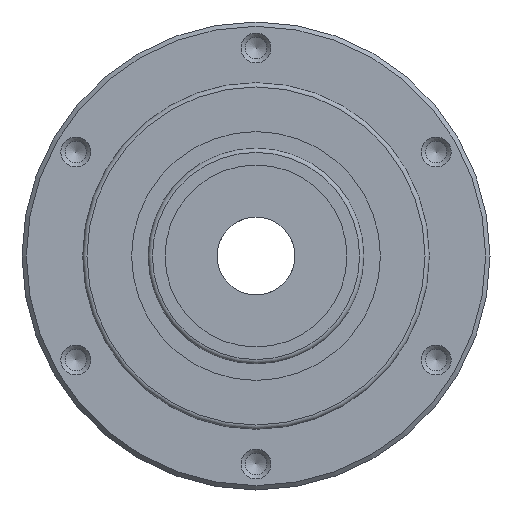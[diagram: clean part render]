
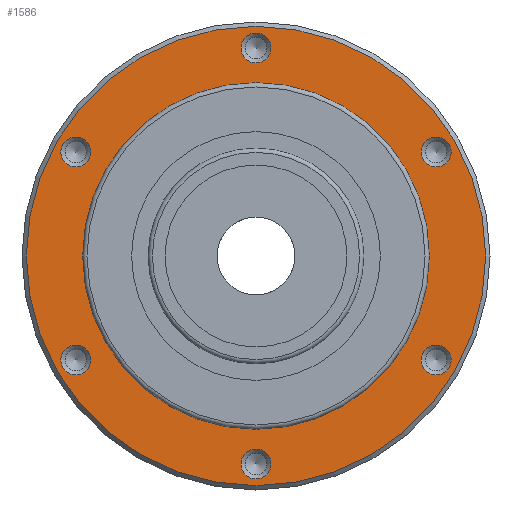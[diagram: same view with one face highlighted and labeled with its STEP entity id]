
A CAD part, left-side view. The second image highlights one B-rep face of the part: STEP entity #1586.
In plain terms, the highlighted planar face has unit normal (-1, 0, 0).
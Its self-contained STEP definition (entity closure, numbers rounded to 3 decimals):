
#107=PLANE('',#1705);
#165=CIRCLE('',#1704,40.);
#166=CIRCLE('',#1706,3.459);
#167=CIRCLE('',#1707,3.459);
#168=CIRCLE('',#1708,3.459);
#169=CIRCLE('',#1709,3.459);
#170=CIRCLE('',#1710,3.459);
#171=CIRCLE('',#1711,3.459);
#172=CIRCLE('',#1712,53.);
#270=ORIENTED_EDGE('',*,*,#484,.T.);
#271=ORIENTED_EDGE('',*,*,#485,.T.);
#272=ORIENTED_EDGE('',*,*,#486,.T.);
#273=ORIENTED_EDGE('',*,*,#487,.T.);
#274=ORIENTED_EDGE('',*,*,#488,.T.);
#275=ORIENTED_EDGE('',*,*,#489,.T.);
#276=ORIENTED_EDGE('',*,*,#490,.T.);
#277=ORIENTED_EDGE('',*,*,#483,.F.);
#483=EDGE_CURVE('',#590,#590,#165,.T.);
#484=EDGE_CURVE('',#591,#591,#166,.T.);
#485=EDGE_CURVE('',#592,#592,#167,.T.);
#486=EDGE_CURVE('',#593,#593,#168,.T.);
#487=EDGE_CURVE('',#594,#594,#169,.T.);
#488=EDGE_CURVE('',#595,#595,#170,.T.);
#489=EDGE_CURVE('',#596,#596,#171,.T.);
#490=EDGE_CURVE('',#597,#597,#172,.T.);
#590=VERTEX_POINT('',#2340);
#591=VERTEX_POINT('',#2343);
#592=VERTEX_POINT('',#2345);
#593=VERTEX_POINT('',#2347);
#594=VERTEX_POINT('',#2349);
#595=VERTEX_POINT('',#2351);
#596=VERTEX_POINT('',#2353);
#597=VERTEX_POINT('',#2355);
#699=EDGE_LOOP('',(#270));
#700=EDGE_LOOP('',(#271));
#701=EDGE_LOOP('',(#272));
#702=EDGE_LOOP('',(#273));
#703=EDGE_LOOP('',(#274));
#704=EDGE_LOOP('',(#275));
#705=EDGE_LOOP('',(#276));
#706=EDGE_LOOP('',(#277));
#845=FACE_BOUND('',#699,.T.);
#846=FACE_BOUND('',#700,.T.);
#847=FACE_BOUND('',#701,.T.);
#848=FACE_BOUND('',#702,.T.);
#849=FACE_BOUND('',#703,.T.);
#850=FACE_BOUND('',#704,.T.);
#851=FACE_BOUND('',#705,.T.);
#852=FACE_BOUND('',#706,.T.);
#1586=ADVANCED_FACE('',(#845,#846,#847,#848,#849,#850,#851,#852),#107,.T.);
#1704=AXIS2_PLACEMENT_3D('',#2339,#1913,#1914);
#1705=AXIS2_PLACEMENT_3D('',#2341,#1915,#1916);
#1706=AXIS2_PLACEMENT_3D('',#2342,#1917,#1918);
#1707=AXIS2_PLACEMENT_3D('',#2344,#1919,#1920);
#1708=AXIS2_PLACEMENT_3D('',#2346,#1921,#1922);
#1709=AXIS2_PLACEMENT_3D('',#2348,#1923,#1924);
#1710=AXIS2_PLACEMENT_3D('',#2350,#1925,#1926);
#1711=AXIS2_PLACEMENT_3D('',#2352,#1927,#1928);
#1712=AXIS2_PLACEMENT_3D('',#2354,#1929,#1930);
#1913=DIRECTION('',(-1.,0.,0.));
#1914=DIRECTION('',(0.,0.,1.));
#1915=DIRECTION('',(-1.,0.,0.));
#1916=DIRECTION('',(0.,0.,1.));
#1917=DIRECTION('',(1.,0.,0.));
#1918=DIRECTION('',(0.,-0.5,0.866));
#1919=DIRECTION('',(1.,0.,0.));
#1920=DIRECTION('',(0.,0.5,0.866));
#1921=DIRECTION('',(1.,0.,0.));
#1922=DIRECTION('',(0.,1.,0.));
#1923=DIRECTION('',(1.,0.,0.));
#1924=DIRECTION('',(0.,0.5,-0.866));
#1925=DIRECTION('',(1.,0.,0.));
#1926=DIRECTION('',(0.,-0.5,-0.866));
#1927=DIRECTION('',(1.,0.,0.));
#1928=DIRECTION('',(0.,-1.,0.));
#1929=DIRECTION('',(-1.,0.,0.));
#1930=DIRECTION('',(0.,0.,1.));
#2339=CARTESIAN_POINT('',(12.167,0.,0.));
#2340=CARTESIAN_POINT('',(12.167,0.,40.));
#2341=CARTESIAN_POINT('',(12.167,0.,40.));
#2342=CARTESIAN_POINT('',(12.167,41.569,24.));
#2343=CARTESIAN_POINT('',(12.167,39.84,26.995));
#2344=CARTESIAN_POINT('',(12.167,41.569,-24.));
#2345=CARTESIAN_POINT('',(12.167,43.298,-21.005));
#2346=CARTESIAN_POINT('',(12.167,0.,-48.));
#2347=CARTESIAN_POINT('',(12.167,3.459,-48.));
#2348=CARTESIAN_POINT('',(12.167,-41.569,-24.));
#2349=CARTESIAN_POINT('',(12.167,-39.84,-26.995));
#2350=CARTESIAN_POINT('',(12.167,-41.569,24.));
#2351=CARTESIAN_POINT('',(12.167,-43.298,21.005));
#2352=CARTESIAN_POINT('',(12.167,0.,48.));
#2353=CARTESIAN_POINT('',(12.167,-3.459,48.));
#2354=CARTESIAN_POINT('',(12.167,0.,0.));
#2355=CARTESIAN_POINT('',(12.167,0.,53.));
